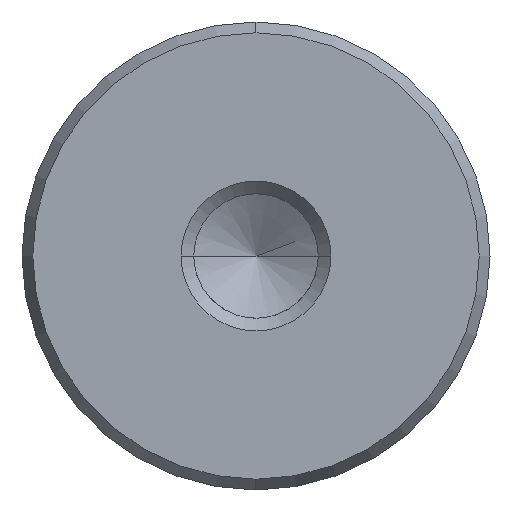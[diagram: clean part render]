
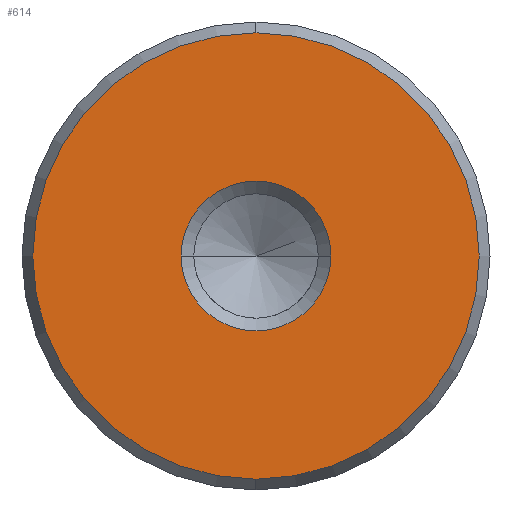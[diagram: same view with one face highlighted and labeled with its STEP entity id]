
A CAD part, left-side view. The second image highlights one B-rep face of the part: STEP entity #614.
In plain terms, the highlighted planar face has unit normal (-1, 0, 0).
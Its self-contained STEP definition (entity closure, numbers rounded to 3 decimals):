
#528=CARTESIAN_POINT('Vertex',(0.,0.,-11.923)) ;
#531=CARTESIAN_POINT('Axis2P3D Location',(0.,0.,0.)) ;
#535=CARTESIAN_POINT('Vertex',(0.,11.923,0.)) ;
#538=CARTESIAN_POINT('Axis2P3D Location',(0.,0.,0.)) ;
#542=CARTESIAN_POINT('Vertex',(0.,0.,11.923)) ;
#564=CARTESIAN_POINT('Axis2P3D Location',(0.,0.,0.)) ;
#568=CARTESIAN_POINT('Vertex',(0.,-11.923,0.)) ;
#571=CARTESIAN_POINT('Axis2P3D Location',(0.,0.,0.)) ;
#585=CARTESIAN_POINT('Axis2P3D Location',(0.,0.,0.)) ;
#596=CARTESIAN_POINT('Axis2P3D Location',(0.,0.,0.)) ;
#600=CARTESIAN_POINT('Vertex',(0.,4.,0.)) ;
#602=CARTESIAN_POINT('Vertex',(0.,-4.,0.)) ;
#605=CARTESIAN_POINT('Axis2P3D Location',(0.,0.,0.)) ;
#532=DIRECTION('Axis2P3D Direction',(1.,0.,-0.)) ;
#539=DIRECTION('Axis2P3D Direction',(1.,0.,-0.)) ;
#565=DIRECTION('Axis2P3D Direction',(1.,0.,-0.)) ;
#572=DIRECTION('Axis2P3D Direction',(1.,0.,-0.)) ;
#586=DIRECTION('Axis2P3D Direction',(1.,0.,-0.)) ;
#587=DIRECTION('Axis2P3D XDirection',(-0.,0.,-1.)) ;
#597=DIRECTION('Axis2P3D Direction',(1.,0.,-0.)) ;
#606=DIRECTION('Axis2P3D Direction',(1.,0.,-0.)) ;
#533=AXIS2_PLACEMENT_3D('Circle Axis2P3D',#531,#532,$) ;
#540=AXIS2_PLACEMENT_3D('Circle Axis2P3D',#538,#539,$) ;
#566=AXIS2_PLACEMENT_3D('Circle Axis2P3D',#564,#565,$) ;
#573=AXIS2_PLACEMENT_3D('Circle Axis2P3D',#571,#572,$) ;
#588=AXIS2_PLACEMENT_3D('Plane Axis2P3D',#585,#586,#587) ;
#598=AXIS2_PLACEMENT_3D('Circle Axis2P3D',#596,#597,$) ;
#607=AXIS2_PLACEMENT_3D('Circle Axis2P3D',#605,#606,$) ;
#591=ORIENTED_EDGE('',*,*,#537,.F.) ;
#592=ORIENTED_EDGE('',*,*,#575,.F.) ;
#593=ORIENTED_EDGE('',*,*,#570,.F.) ;
#594=ORIENTED_EDGE('',*,*,#544,.F.) ;
#611=ORIENTED_EDGE('',*,*,#604,.T.) ;
#612=ORIENTED_EDGE('',*,*,#609,.T.) ;
#613=FACE_BOUND('',#610,.T.) ;
#614=ADVANCED_FACE('720-25x250',(#595,#613),#589,.F.) ;
#534=CIRCLE('generated circle',#533,11.923) ;
#541=CIRCLE('generated circle',#540,11.923) ;
#567=CIRCLE('generated circle',#566,11.923) ;
#574=CIRCLE('generated circle',#573,11.923) ;
#599=CIRCLE('generated circle',#598,4.) ;
#608=CIRCLE('generated circle',#607,4.) ;
#537=EDGE_CURVE('',#529,#536,#534,.T.) ;
#544=EDGE_CURVE('',#536,#543,#541,.T.) ;
#570=EDGE_CURVE('',#543,#569,#567,.T.) ;
#575=EDGE_CURVE('',#569,#529,#574,.T.) ;
#604=EDGE_CURVE('',#601,#603,#599,.T.) ;
#609=EDGE_CURVE('',#603,#601,#608,.T.) ;
#590=EDGE_LOOP('',(#591,#592,#593,#594)) ;
#610=EDGE_LOOP('',(#611,#612)) ;
#595=FACE_OUTER_BOUND('',#590,.T.) ;
#589=PLANE('Plane',#588) ;
#529=VERTEX_POINT('',#528) ;
#536=VERTEX_POINT('',#535) ;
#543=VERTEX_POINT('',#542) ;
#569=VERTEX_POINT('',#568) ;
#601=VERTEX_POINT('',#600) ;
#603=VERTEX_POINT('',#602) ;
